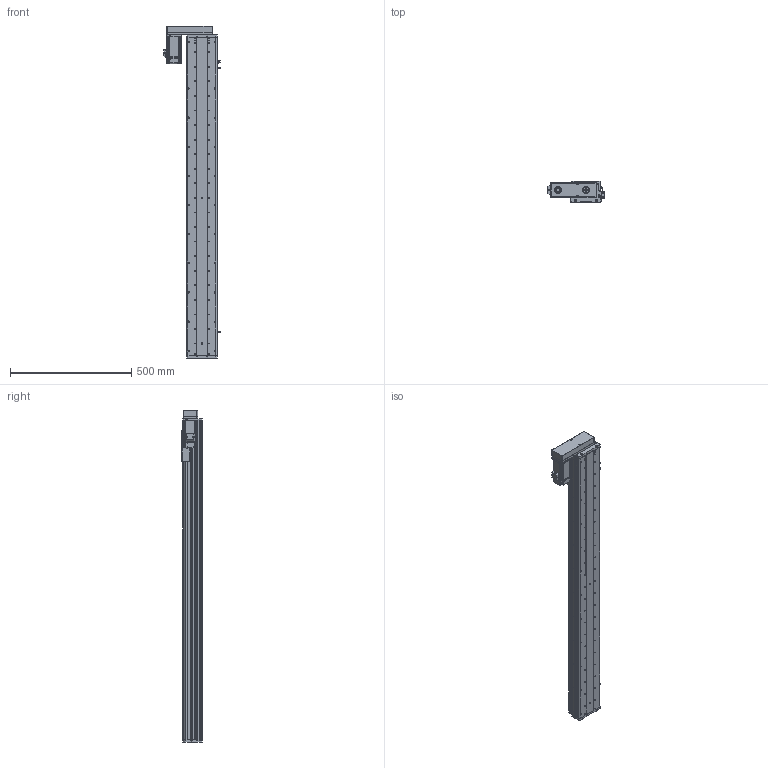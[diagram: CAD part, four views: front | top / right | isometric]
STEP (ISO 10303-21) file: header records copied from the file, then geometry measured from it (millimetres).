
FILE_DESCRIPTION (( 'STEP AP214' ), '1' );
FILE_NAME ('KSD125S-S1100-ML-CM.STEP', '2017-10-21T08:44:42', ( '微软用户' ), ( '微软中国' ), 'SwSTEP 2.0', 'SolidWorks 2014', '' );
FILE_SCHEMA (( 'AUTOMOTIVE_DESIGN' ));
Length unit declared in the file: millimetre
Products named in the file (16): U倰嫖萇EEㄜSX672; HTPA30S3M150_A_H6_a佪裝蚚; HTPA30S3M150_A_H6_a萇儂蚚; 125宽马达安装板连板左右折丝杆; 125悵誘欶酘衵殏; KSD125S-1100俴最佪裝滅鳥裔; KSD125S-1100俴最佪裝菁啣; KSD125-賑雄釱1; MHMD042G1CA_2_03; 拸萇儂釱滅袉菜; 拸萇儂釱滅袉菜-1; U倰嫖萇假蚾璃; ヶ傷啣-125遵耀郪; 125-帣傷啣1; KSD125S-S1100-ML-CM; 覜茼え68遵圉猾敕
Assembly tree (19 placements, depth 2):
  KSD125S-S1100-ML-CM
    125-帣傷啣1
    ヶ傷啣-125遵耀郪
    U倰嫖萇假蚾璃  x3
    拸萇儂釱滅袉菜-1
    拸萇儂釱滅袉菜
    MHMD042G1CA_2_03
    KSD125-賑雄釱1
    KSD125S-1100俴最佪裝菁啣
    KSD125S-1100俴最佪裝滅鳥裔
    125悵誘欶酘衵殏
    125宽马达安装板连板左右折丝杆
    HTPA30S3M150_A_H6_a萇儂蚚
    HTPA30S3M150_A_H6_a佪裝蚚
    U倰嫖萇EEㄜSX672  x3
    覜茼え68遵圉猾敕
Bounding box: 234.2 x 86 x 1367.5 mm (x, y, z)
Volume: 4242907.8 mm3; surface area: 1423669.5 mm2
Topology: 18 solids, 21 shells, 2273 faces, 6597 edges, 4353 vertices
Faces by surface type: cylinder 1442, plane 690, cone 119, bspline 22
Entity records: 80603 total; most frequent: CARTESIAN_POINT 16327, DIRECTION 12571, ORIENTED_EDGE 11702, EDGE_CURVE 5929, AXIS2_PLACEMENT_3D 4875, VERTEX_POINT 3945, CIRCLE 2821, VECTOR 2821
